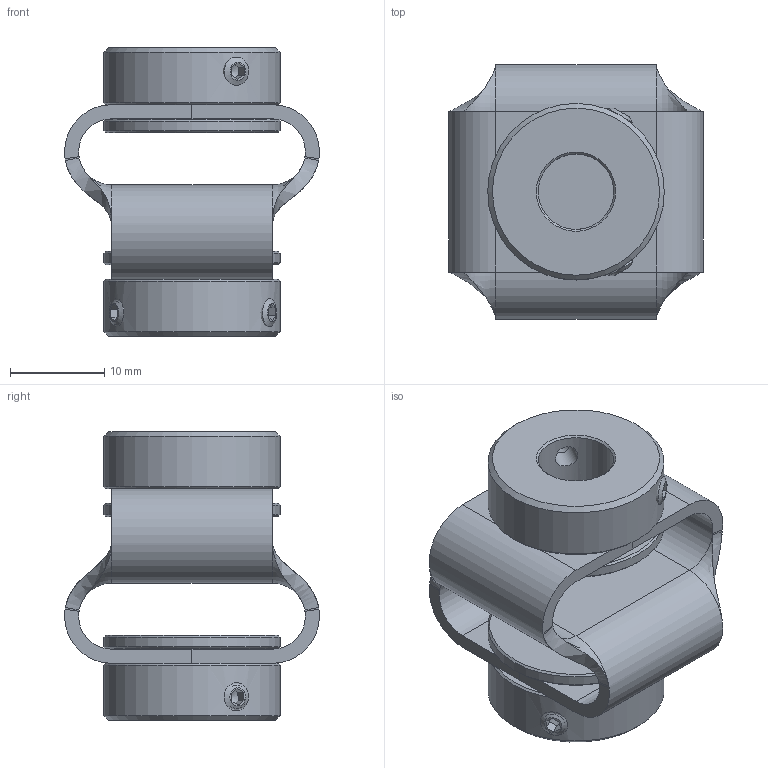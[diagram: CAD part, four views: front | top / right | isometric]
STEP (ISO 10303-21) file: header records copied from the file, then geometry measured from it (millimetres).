
FILE_DESCRIPTION(/* description */ ('Stern '),/* implementation_level */ '2;1');
FILE_NAME(/* name */ 'Z:\ABP-Antriebstechnik\Entwicklung-3D\Paguflex\DKPSF\DKPSF2928 08 08.stp',/* time_stamp */ '2024-03-11T12:59:08+01:00',/* author */ ('christian.fehrenbach'),/* organization */ (''),/* preprocessor_version */ 'ST-DEVELOPER v16.1',/* originating_system */ 'Autodesk Inventor 2016',/* authorisation */ '');
FILE_SCHEMA (('AUTOMOTIVE_DESIGN { 1 0 10303 214 3 1 1 }'));
Length unit declared in the file: millimetre
Products named in the file (4): Stern DKPSF2928 gebogen; Schraubnabe 1909 08; ISO 4029 - M3 x 4 - ISO; DKPSF2928 08 08
Assembly tree (7 placements, depth 2):
  DKPSF2928 08 08
    Stern DKPSF2928 gebogen
    Schraubnabe 1909 08  x2
    ISO 4029 - M3 x 4 - ISO  x4
Bounding box: 27 x 27 x 30.6 mm (x, y, z)
Volume: 5828.7 mm3; surface area: 6592.7 mm2
Topology: 7 solids, 11 shells, 162 faces, 348 edges, 198 vertices
Faces by surface type: plane 84, cylinder 30, cone 28, bspline 12, torus 8
Full cylindrical faces by diameter (mm): 2.459 x4, 3 x4, 8 x2, 12.5 x2, 14 x2, 18.7 x4
Entity records: 2932 total; most frequent: CARTESIAN_POINT 957, DIRECTION 388, ORIENTED_EDGE 372, EDGE_CURVE 178, AXIS2_PLACEMENT_3D 155, EDGE_LOOP 116, VERTEX_POINT 110, FACE_OUTER_BOUND 90
